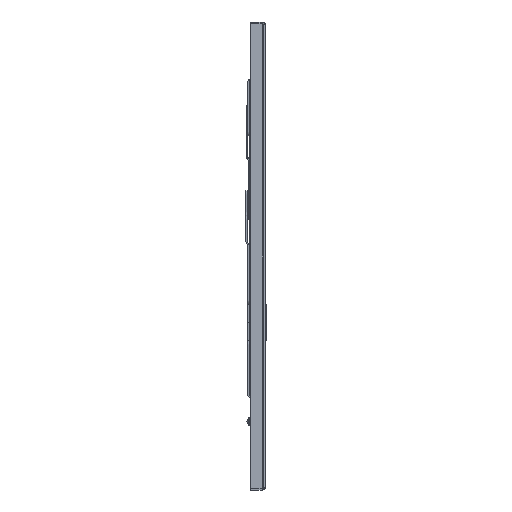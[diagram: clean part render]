
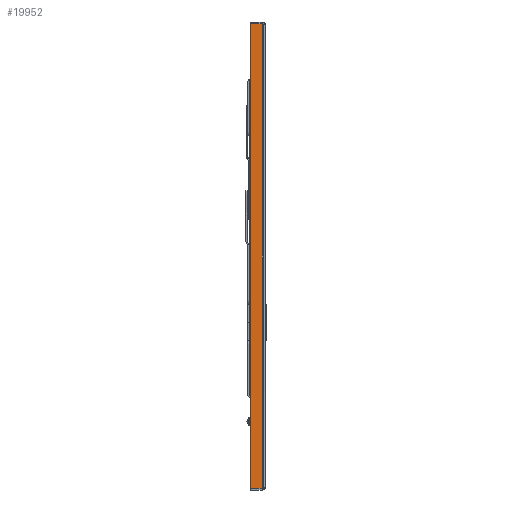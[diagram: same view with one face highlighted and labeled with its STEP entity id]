
A CAD part, left-side view. The second image highlights one B-rep face of the part: STEP entity #19952.
In plain terms, the highlighted planar face has unit normal (-1, 0, 0).
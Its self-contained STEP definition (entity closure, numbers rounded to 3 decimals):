
#1206 = VERTEX_POINT ( 'NONE', #4036 ) ;
#1984 = FACE_OUTER_BOUND ( 'NONE', #7292, .T. ) ;
#2938 = CARTESIAN_POINT ( 'NONE',  ( -795., 15.469, -277.968 ) ) ;
#4036 = CARTESIAN_POINT ( 'NONE',  ( -795., 15.469, 277.968 ) ) ;
#4228 = DIRECTION ( 'NONE',  ( 0., -1., 0. ) ) ;
#4624 = EDGE_CURVE ( 'NONE', #19840, #12844, #5003, .T. ) ;
#4964 = EDGE_CURVE ( 'NONE', #1206, #13826, #19888, .T. ) ;
#5003 = LINE ( 'NONE', #9634, #15991 ) ;
#5174 = EDGE_CURVE ( 'NONE', #1206, #19840, #25581, .T. ) ;
#5227 = EDGE_CURVE ( 'NONE', #13826, #12844, #14670, .T. ) ;
#7292 = EDGE_LOOP ( 'NONE', ( #19486, #18822, #7421, #25849 ) ) ;
#7421 = ORIENTED_EDGE ( 'NONE', *, *, #5227, .T. ) ;
#8644 = CARTESIAN_POINT ( 'NONE',  ( -795., 15.469, 277.968 ) ) ;
#8938 = DIRECTION ( 'NONE',  ( 0., -1., 0. ) ) ;
#9634 = CARTESIAN_POINT ( 'NONE',  ( -795., 2.032, -280. ) ) ;
#10638 = DIRECTION ( 'NONE',  ( 0., 0., -1. ) ) ;
#10659 = DIRECTION ( 'NONE',  ( 1., 0., 0. ) ) ;
#10823 = PLANE ( 'NONE',  #20612 ) ;
#11552 = CARTESIAN_POINT ( 'NONE',  ( -795., 15.469, -280. ) ) ;
#12844 = VERTEX_POINT ( 'NONE', #24231 ) ;
#13057 = CARTESIAN_POINT ( 'NONE',  ( -795., 2.032, 277.968 ) ) ;
#13667 = VECTOR ( 'NONE', #24588, 1000. ) ;
#13826 = VERTEX_POINT ( 'NONE', #24870 ) ;
#14670 = LINE ( 'NONE', #2938, #18888 ) ;
#15991 = VECTOR ( 'NONE', #23754, 1000. ) ;
#18822 = ORIENTED_EDGE ( 'NONE', *, *, #4964, .T. ) ;
#18888 = VECTOR ( 'NONE', #4228, 1000. ) ;
#19486 = ORIENTED_EDGE ( 'NONE', *, *, #5174, .F. ) ;
#19840 = VERTEX_POINT ( 'NONE', #13057 ) ;
#19888 = LINE ( 'NONE', #23937, #13667 ) ;
#19952 = ADVANCED_FACE ( 'NONE', ( #1984 ), #10823, .F. ) ;
#20194 = VECTOR ( 'NONE', #8938, 1000. ) ;
#20612 = AXIS2_PLACEMENT_3D ( 'NONE', #11552, #10659, #10638 ) ;
#23754 = DIRECTION ( 'NONE',  ( 0., 0., -1. ) ) ;
#23937 = CARTESIAN_POINT ( 'NONE',  ( -795., 15.469, -280. ) ) ;
#24231 = CARTESIAN_POINT ( 'NONE',  ( -795., 2.032, -277.968 ) ) ;
#24588 = DIRECTION ( 'NONE',  ( 0., 0., -1. ) ) ;
#24870 = CARTESIAN_POINT ( 'NONE',  ( -795., 15.469, -277.968 ) ) ;
#25581 = LINE ( 'NONE', #8644, #20194 ) ;
#25849 = ORIENTED_EDGE ( 'NONE', *, *, #4624, .F. ) ;
